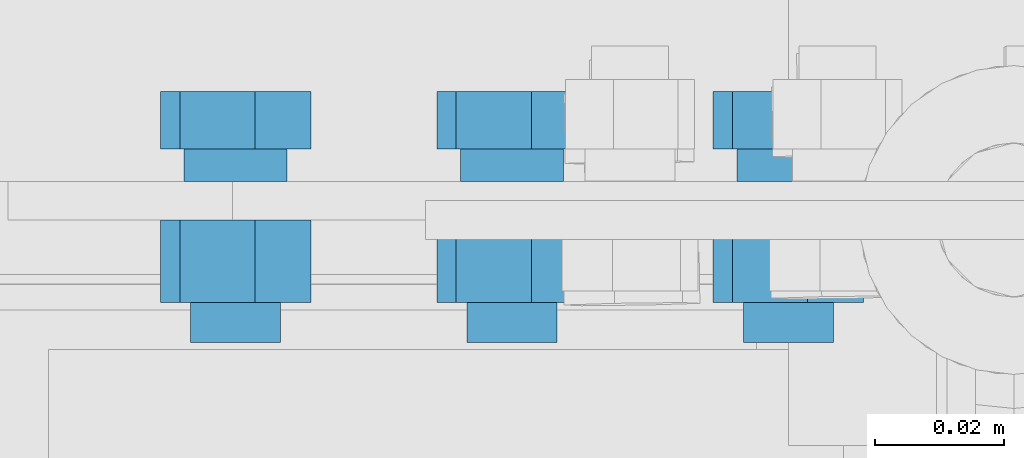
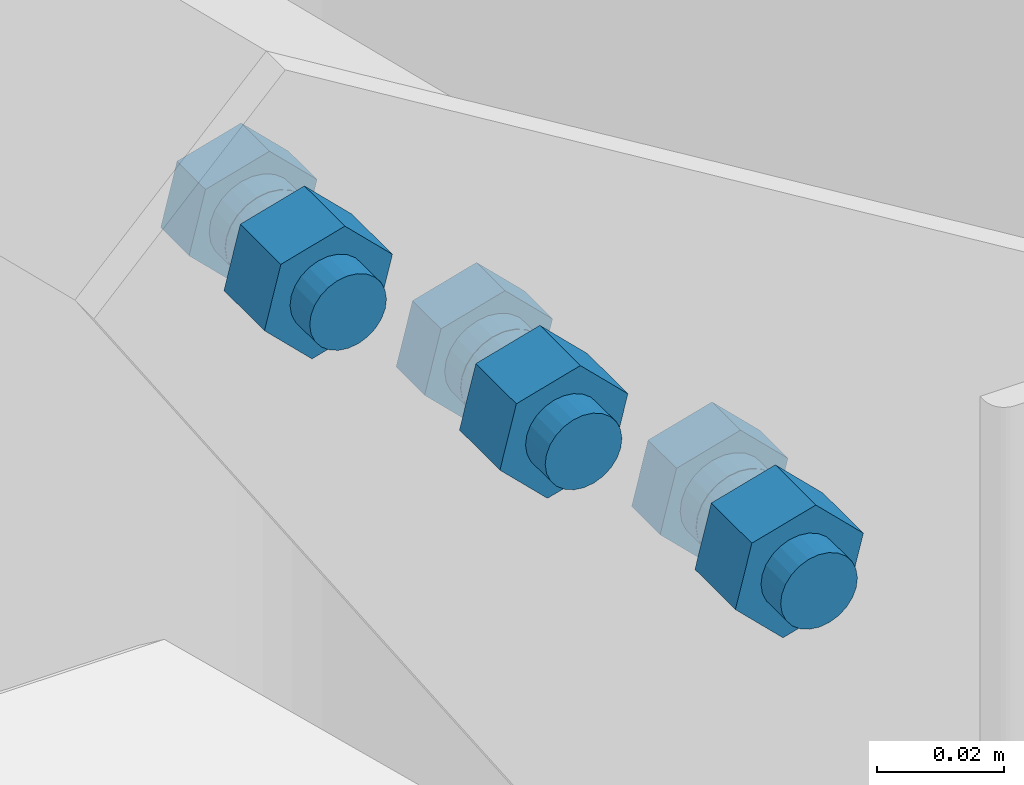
# One storey, part 16 of 21: 1 mechanical fastener.
"""IFC2X3 building model written with IfcOpenShell, lengths in millimetres."""

from ifc_helpers import new_model, si_unit, frame, origin_with_axes, place, context, project, spatial, faceted_brep, element, save


model = new_model("IFC2X3")

# Units and contexts
model_context_1 = context("Model", 3, precision=1e-05, world=origin_with_axes(), identifier="Body")
model_context_2 = context("Model", 3, precision=1e-05, world=origin_with_axes())
ifc_project = project(units=[si_unit("LENGTHUNIT", "METRE", prefix="MILLI"), si_unit("AREAUNIT", "SQUARE_METRE"), si_unit("VOLUMEUNIT", "CUBIC_METRE"), si_unit("MASSUNIT", "GRAM", prefix="KILO"), si_unit("TIMEUNIT", "SECOND"), si_unit("PLANEANGLEUNIT", "RADIAN"), si_unit("SOLIDANGLEUNIT", "STERADIAN"), si_unit("THERMODYNAMICTEMPERATUREUNIT", "DEGREE_CELSIUS"), si_unit("LUMINOUSINTENSITYUNIT", "LUMEN")], contexts=[model_context_1, model_context_2])

# Site, building, storey
site_placement = place(None, origin_with_axes())
site = spatial("IfcSite", under=ifc_project, at=site_placement, Name="Undefined", CompositionType="ELEMENT")
building_placement = place(site_placement, origin_with_axes())
building = spatial("IfcBuilding", under=site, at=building_placement, Name="Undefined", CompositionType="ELEMENT")
storey_placement = place(building_placement, origin_with_axes())
storey = spatial("IfcBuildingStorey", under=building, at=storey_placement, Name="Undefined", CompositionType="ELEMENT")

# Mechanical fastener
mechanical_fastener_placement = place(storey_placement, frame((-95.054184, -44.002958, 108.71803), z_axis=(0.69852816, -2.2800001e-05, 0.71558256), x_axis=(-0.71558256, -2.2200001e-05, 0.69852816)))
element("IfcMechanicalFastener", 1, at=mechanical_fastener_placement, inside=storey, Name="Bolt assembly", NominalDiameter=14.0, NominalLength=30.0, context=model_context_1, shape_type="Brep", body=[
    faceted_brep([(12.124356, 10.997041, 0.0), (6.0621778, 10.997041, 10.5), (-6.0621778, 10.997041, 10.5), (-12.124356, 10.997041, 0.0), (-6.0621778, 10.997041, -10.5), (6.0621778, 10.997041, -10.5), (6.0621778, 19.997041, -10.5), (-6.0621778, 19.997041, -10.5), (-12.124356, 19.997041, 0.0), (-6.0621778, 19.997041, 10.5), (6.0621778, 19.997041, 10.5), (12.124356, 19.997041, 0.0), (7.0, 19.997041, 0.0), (6.7614808, 19.997041, 1.8117333), (6.0621778, 19.997041, 3.5), (4.9497475, 19.997041, 4.9497475), (3.5, 19.997041, 6.0621778), (1.8117333, 19.997041, 6.7614808), (-7.2543519e-13, 19.997041, 7.0), (-1.8117333, 19.997041, 6.7614808), (-3.5, 19.997041, 6.0621778), (-4.9497475, 19.997041, 4.9497475), (-6.0621778, 19.997041, 3.5), (-6.7614808, 19.997041, 1.8117333), (-7.0, 19.997041, -1.4508704e-12), (-6.7614808, 19.997041, -1.8117333), (-6.0621778, 19.997041, -3.5), (-4.9497475, 19.997041, -4.9497475), (-3.5, 19.997041, -6.0621778), (-1.8117333, 19.997041, -6.7614808), (2.168534e-12, 19.997041, -7.0), (1.8117333, 19.997041, -6.7614808), (3.5, 19.997041, -6.0621778), (4.9497475, 19.997041, -4.9497475), (6.0621778, 19.997041, -3.5), (6.7614808, 19.997041, -1.8117333), (6.7614808, 49.997041, -1.8117333), (6.0621778, 49.997041, -3.5), (4.9497475, 49.997041, -4.9497475), (3.5, 49.997041, -6.0621778), (1.8117333, 49.997041, -6.7614808), (2.168534e-12, 49.997041, -7.0), (-1.8117333, 49.997041, -6.7614808), (-3.5, 49.997041, -6.0621778), (-4.9497475, 49.997041, -4.9497475), (-6.0621778, 49.997041, -3.5), (-6.7614808, 49.997041, -1.8117333), (-7.0, 49.997041, -1.4508704e-12), (-6.7614808, 49.997041, 1.8117333), (-6.0621778, 49.997041, 3.5), (-4.9497475, 49.997041, 4.9497475), (-3.5, 49.997041, 6.0621778), (-1.8117333, 49.997041, 6.7614808), (-7.2543519e-13, 49.997041, 7.0), (1.8117333, 49.997041, 6.7614808), (3.5, 49.997041, 6.0621778), (4.9497475, 49.997041, 4.9497475), (6.0621778, 49.997041, 3.5), (6.7614808, 49.997041, 1.8117333), (7.0, 49.997041, 0.0), (12.124356, 30.99748, 0.0), (6.0621778, 30.99748, 10.5), (-6.0621778, 30.99748, 10.5), (-12.124356, 30.99748, 0.0), (-6.0621778, 30.99748, -10.5), (6.0621778, 30.99748, -10.5), (6.0621778, 43.797481, -10.5), (-6.0621778, 43.797481, -10.5), (-12.124356, 43.797481, 0.0), (-6.0621778, 43.797481, 10.5), (6.0621778, 43.797481, 10.5), (12.124356, 43.797481, 0.0), (72.124356, 10.997041, 0.0), (66.062178, 10.997041, 10.5), (53.937822, 10.997041, 10.5), (47.875644, 10.997041, 0.0), (53.937822, 10.997041, -10.5), (66.062178, 10.997041, -10.5), (66.062178, 19.997041, -10.5), (53.937822, 19.997041, -10.5), (47.875644, 19.997041, 0.0), (53.937822, 19.997041, 10.5), (66.062178, 19.997041, 10.5), (72.124356, 19.997041, 0.0), (67.0, 19.997041, 0.0), (66.761481, 19.997041, 1.8117333), (66.062178, 19.997041, 3.5), (64.949747, 19.997041, 4.9497475), (63.5, 19.997041, 6.0621778), (61.811733, 19.997041, 6.7614808), (60.0, 19.997041, 7.0), (58.188267, 19.997041, 6.7614808), (56.5, 19.997041, 6.0621778), (55.050253, 19.997041, 4.9497475), (53.937822, 19.997041, 3.5), (53.238519, 19.997041, 1.8117333), (53.0, 19.997041, -1.4508704e-12), (53.238519, 19.997041, -1.8117333), (53.937822, 19.997041, -3.5), (55.050253, 19.997041, -4.9497475), (56.5, 19.997041, -6.0621778), (58.188267, 19.997041, -6.7614808), (60.0, 19.997041, -7.0), (61.811733, 19.997041, -6.7614808), (63.5, 19.997041, -6.0621778), (64.949747, 19.997041, -4.9497475), (66.062178, 19.997041, -3.5), (66.761481, 19.997041, -1.8117333), (66.761481, 49.997041, -1.8117333), (66.062178, 49.997041, -3.5), (64.949747, 49.997041, -4.9497475), (63.5, 49.997041, -6.0621778), (61.811733, 49.997041, -6.7614808), (60.0, 49.997041, -7.0), (58.188267, 49.997041, -6.7614808), (56.5, 49.997041, -6.0621778), (55.050253, 49.997041, -4.9497475), (53.937822, 49.997041, -3.5), (53.238519, 49.997041, -1.8117333), (53.0, 49.997041, -1.4508704e-12), (53.238519, 49.997041, 1.8117333), (53.937822, 49.997041, 3.5), (55.050253, 49.997041, 4.9497475), (56.5, 49.997041, 6.0621778), (58.188267, 49.997041, 6.7614808), (60.0, 49.997041, 7.0), (61.811733, 49.997041, 6.7614808), (63.5, 49.997041, 6.0621778), (64.949747, 49.997041, 4.9497475), (66.062178, 49.997041, 3.5), (66.761481, 49.997041, 1.8117333), (67.0, 49.997041, 0.0), (72.124356, 30.99748, 0.0), (66.062178, 30.99748, 10.5), (53.937822, 30.99748, 10.5), (47.875644, 30.99748, 0.0), (53.937822, 30.99748, -10.5), (66.062178, 30.99748, -10.5), (66.062178, 43.797481, -10.5), (53.937822, 43.797481, -10.5), (47.875644, 43.797481, 0.0), (53.937822, 43.797481, 10.5), (66.062178, 43.797481, 10.5), (72.124356, 43.797481, 0.0), (132.12436, 10.997041, 0.0), (126.06218, 10.997041, 10.5), (113.93782, 10.997041, 10.5), (107.87564, 10.997041, 0.0), (113.93782, 10.997041, -10.5), (126.06218, 10.997041, -10.5), (126.06218, 19.997041, -10.5), (113.93782, 19.997041, -10.5), (107.87564, 19.997041, 0.0), (113.93782, 19.997041, 10.5), (126.06218, 19.997041, 10.5), (132.12436, 19.997041, 0.0), (127.0, 19.997041, 0.0), (126.76148, 19.997041, 1.8117333), (126.06218, 19.997041, 3.5), (124.94975, 19.997041, 4.9497475), (123.5, 19.997041, 6.0621778), (121.81173, 19.997041, 6.7614808), (120.0, 19.997041, 7.0), (118.18827, 19.997041, 6.7614808), (116.5, 19.997041, 6.0621778), (115.05025, 19.997041, 4.9497475), (113.93782, 19.997041, 3.5), (113.23852, 19.997041, 1.8117333), (113.0, 19.997041, -1.4508704e-12), (113.23852, 19.997041, -1.8117333), (113.93782, 19.997041, -3.5), (115.05025, 19.997041, -4.9497475), (116.5, 19.997041, -6.0621778), (118.18827, 19.997041, -6.7614808), (120.0, 19.997041, -7.0), (121.81173, 19.997041, -6.7614808), (123.5, 19.997041, -6.0621778), (124.94975, 19.997041, -4.9497475), (126.06218, 19.997041, -3.5), (126.76148, 19.997041, -1.8117333), (126.76148, 49.997041, -1.8117333), (126.06218, 49.997041, -3.5), (124.94975, 49.997041, -4.9497475), (123.5, 49.997041, -6.0621778), (121.81173, 49.997041, -6.7614808), (120.0, 49.997041, -7.0), (118.18827, 49.997041, -6.7614808), (116.5, 49.997041, -6.0621778), (115.05025, 49.997041, -4.9497475), (113.93782, 49.997041, -3.5), (113.23852, 49.997041, -1.8117333), (113.0, 49.997041, -1.4508704e-12), (113.23852, 49.997041, 1.8117333), (113.93782, 49.997041, 3.5), (115.05025, 49.997041, 4.9497475), (116.5, 49.997041, 6.0621778), (118.18827, 49.997041, 6.7614808), (120.0, 49.997041, 7.0), (121.81173, 49.997041, 6.7614808), (123.5, 49.997041, 6.0621778), (124.94975, 49.997041, 4.9497475), (126.06218, 49.997041, 3.5), (126.76148, 49.997041, 1.8117333), (127.0, 49.997041, 0.0), (132.12436, 30.99748, 0.0), (126.06218, 30.99748, 10.5), (113.93782, 30.99748, 10.5), (107.87564, 30.99748, 0.0), (113.93782, 30.99748, -10.5), (126.06218, 30.99748, -10.5), (126.06218, 43.797481, -10.5), (113.93782, 43.797481, -10.5), (107.87564, 43.797481, 0.0), (113.93782, 43.797481, 10.5), (126.06218, 43.797481, 10.5), (132.12436, 43.797481, 0.0)], [[[0, 1, 2, 3, 4, 5]], [[6, 7, 8, 9, 10, 11]], [[0, 11, 10, 1]], [[1, 10, 9, 2]], [[2, 9, 8, 3]], [[3, 8, 7, 4]], [[4, 7, 6, 5]], [[5, 6, 11, 0]], [[12, 13, 14, 15, 16, 17, 18, 19, 20, 21, 22, 23, 24, 25, 26, 27, 28, 29, 30, 31, 32, 33, 34, 35]], [[36, 37, 38, 39, 40, 41, 42, 43, 44, 45, 46, 47, 48, 49, 50, 51, 52, 53, 54, 55, 56, 57, 58, 59]], [[12, 59, 58, 13]], [[13, 58, 57, 14]], [[14, 57, 56, 15]], [[15, 56, 55, 16]], [[16, 55, 54, 17]], [[17, 54, 53, 18]], [[18, 53, 52, 19]], [[19, 52, 51, 20]], [[20, 51, 50, 21]], [[21, 50, 49, 22]], [[22, 49, 48, 23]], [[23, 48, 47, 24]], [[24, 47, 46, 25]], [[25, 46, 45, 26]], [[26, 45, 44, 27]], [[27, 44, 43, 28]], [[28, 43, 42, 29]], [[29, 42, 41, 30]], [[30, 41, 40, 31]], [[31, 40, 39, 32]], [[32, 39, 38, 33]], [[33, 38, 37, 34]], [[34, 37, 36, 35]], [[35, 36, 59, 12]], [[60, 61, 62, 63, 64, 65]], [[66, 67, 68, 69, 70, 71]], [[60, 71, 70, 61]], [[61, 70, 69, 62]], [[62, 69, 68, 63]], [[63, 68, 67, 64]], [[64, 67, 66, 65]], [[65, 66, 71, 60]], [[72, 73, 74, 75, 76, 77]], [[78, 79, 80, 81, 82, 83]], [[72, 83, 82, 73]], [[73, 82, 81, 74]], [[74, 81, 80, 75]], [[75, 80, 79, 76]], [[76, 79, 78, 77]], [[77, 78, 83, 72]], [[84, 85, 86, 87, 88, 89, 90, 91, 92, 93, 94, 95, 96, 97, 98, 99, 100, 101, 102, 103, 104, 105, 106, 107]], [[108, 109, 110, 111, 112, 113, 114, 115, 116, 117, 118, 119, 120, 121, 122, 123, 124, 125, 126, 127, 128, 129, 130, 131]], [[84, 131, 130, 85]], [[85, 130, 129, 86]], [[86, 129, 128, 87]], [[87, 128, 127, 88]], [[88, 127, 126, 89]], [[89, 126, 125, 90]], [[90, 125, 124, 91]], [[91, 124, 123, 92]], [[92, 123, 122, 93]], [[93, 122, 121, 94]], [[94, 121, 120, 95]], [[95, 120, 119, 96]], [[96, 119, 118, 97]], [[97, 118, 117, 98]], [[98, 117, 116, 99]], [[99, 116, 115, 100]], [[100, 115, 114, 101]], [[101, 114, 113, 102]], [[102, 113, 112, 103]], [[103, 112, 111, 104]], [[104, 111, 110, 105]], [[105, 110, 109, 106]], [[106, 109, 108, 107]], [[107, 108, 131, 84]], [[132, 133, 134, 135, 136, 137]], [[138, 139, 140, 141, 142, 143]], [[132, 143, 142, 133]], [[133, 142, 141, 134]], [[134, 141, 140, 135]], [[135, 140, 139, 136]], [[136, 139, 138, 137]], [[137, 138, 143, 132]], [[144, 145, 146, 147, 148, 149]], [[150, 151, 152, 153, 154, 155]], [[144, 155, 154, 145]], [[145, 154, 153, 146]], [[146, 153, 152, 147]], [[147, 152, 151, 148]], [[148, 151, 150, 149]], [[149, 150, 155, 144]], [[156, 157, 158, 159, 160, 161, 162, 163, 164, 165, 166, 167, 168, 169, 170, 171, 172, 173, 174, 175, 176, 177, 178, 179]], [[180, 181, 182, 183, 184, 185, 186, 187, 188, 189, 190, 191, 192, 193, 194, 195, 196, 197, 198, 199, 200, 201, 202, 203]], [[156, 203, 202, 157]], [[157, 202, 201, 158]], [[158, 201, 200, 159]], [[159, 200, 199, 160]], [[160, 199, 198, 161]], [[161, 198, 197, 162]], [[162, 197, 196, 163]], [[163, 196, 195, 164]], [[164, 195, 194, 165]], [[165, 194, 193, 166]], [[166, 193, 192, 167]], [[167, 192, 191, 168]], [[168, 191, 190, 169]], [[169, 190, 189, 170]], [[170, 189, 188, 171]], [[171, 188, 187, 172]], [[172, 187, 186, 173]], [[173, 186, 185, 174]], [[174, 185, 184, 175]], [[175, 184, 183, 176]], [[176, 183, 182, 177]], [[177, 182, 181, 178]], [[178, 181, 180, 179]], [[179, 180, 203, 156]], [[204, 205, 206, 207, 208, 209]], [[210, 211, 212, 213, 214, 215]], [[204, 215, 214, 205]], [[205, 214, 213, 206]], [[206, 213, 212, 207]], [[207, 212, 211, 208]], [[208, 211, 210, 209]], [[209, 210, 215, 204]]]),
    faceted_brep([(8.0, 25.09748, 0.0), (7.7274066, 25.09748, 2.0705524), (6.9282032, 25.09748, 4.0), (5.6568542, 25.09748, 5.6568542), (4.0, 25.09748, 6.9282032), (2.0705524, 25.09748, 7.7274066), (-8.2906879e-13, 25.09748, 8.0), (-2.0705524, 25.09748, 7.7274066), (-4.0, 25.09748, 6.9282032), (-5.6568542, 25.09748, 5.6568542), (-6.9282032, 25.09748, 4.0), (-7.7274066, 25.09748, 2.0705524), (-8.0, 25.09748, -1.6581376e-12), (-7.7274066, 25.09748, -2.0705524), (-6.9282032, 25.09748, -4.0), (-5.6568542, 25.09748, -5.6568542), (-4.0, 25.09748, -6.9282032), (-2.0705524, 25.09748, -7.7274066), (2.4783246e-12, 25.09748, -8.0), (2.0705524, 25.09748, -7.7274066), (4.0, 25.09748, -6.9282032), (5.6568542, 25.09748, -5.6568542), (6.9282032, 25.09748, -4.0), (7.7274066, 25.09748, -2.0705524), (7.7274066, 31.09748, -2.0705524), (6.9282032, 31.09748, -4.0), (5.6568542, 31.09748, -5.6568542), (4.0, 31.09748, -6.9282032), (2.0705524, 31.09748, -7.7274066), (2.4783246e-12, 31.09748, -8.0), (-2.0705524, 31.09748, -7.7274066), (-4.0, 31.09748, -6.9282032), (-5.6568542, 31.09748, -5.6568542), (-6.9282032, 31.09748, -4.0), (-7.7274066, 31.09748, -2.0705524), (-8.0, 31.09748, -1.6581376e-12), (-7.7274066, 31.09748, 2.0705524), (-6.9282032, 31.09748, 4.0), (-5.6568542, 31.09748, 5.6568542), (-4.0, 31.09748, 6.9282032), (-2.0705524, 31.09748, 7.7274066), (-8.2906879e-13, 31.09748, 8.0), (2.0705524, 31.09748, 7.7274066), (4.0, 31.09748, 6.9282032), (5.6568542, 31.09748, 5.6568542), (6.9282032, 31.09748, 4.0), (7.7274066, 31.09748, 2.0705524), (8.0, 31.09748, 0.0), (8.0, 19.897041, 0.0), (7.7274066, 19.897041, 2.0705524), (6.9282032, 19.897041, 4.0), (5.6568542, 19.897041, 5.6568542), (4.0, 19.897041, 6.9282032), (2.0705524, 19.897041, 7.7274066), (-8.2906879e-13, 19.897041, 8.0), (-2.0705524, 19.897041, 7.7274066), (-4.0, 19.897041, 6.9282032), (-5.6568542, 19.897041, 5.6568542), (-6.9282032, 19.897041, 4.0), (-7.7274066, 19.897041, 2.0705524), (-8.0, 19.897041, -1.6581376e-12), (-7.7274066, 19.897041, -2.0705524), (-6.9282032, 19.897041, -4.0), (-5.6568542, 19.897041, -5.6568542), (-4.0, 19.897041, -6.9282032), (-2.0705524, 19.897041, -7.7274066), (2.4783246e-12, 19.897041, -8.0), (2.0705524, 19.897041, -7.7274066), (4.0, 19.897041, -6.9282032), (5.6568542, 19.897041, -5.6568542), (6.9282032, 19.897041, -4.0), (7.7274066, 19.897041, -2.0705524), (7.7274066, 24.997041, -2.0705524), (6.9282032, 24.997041, -4.0), (5.6568542, 24.997041, -5.6568542), (4.0, 24.997041, -6.9282032), (2.0705524, 24.997041, -7.7274066), (2.4783246e-12, 24.997041, -8.0), (-2.0705524, 24.997041, -7.7274066), (-4.0, 24.997041, -6.9282032), (-5.6568542, 24.997041, -5.6568542), (-6.9282032, 24.997041, -4.0), (-7.7274066, 24.997041, -2.0705524), (-8.0, 24.997041, -1.6581376e-12), (-7.7274066, 24.997041, 2.0705524), (-6.9282032, 24.997041, 4.0), (-5.6568542, 24.997041, 5.6568542), (-4.0, 24.997041, 6.9282032), (-2.0705524, 24.997041, 7.7274066), (-8.2906879e-13, 24.997041, 8.0), (2.0705524, 24.997041, 7.7274066), (4.0, 24.997041, 6.9282032), (5.6568542, 24.997041, 5.6568542), (6.9282032, 24.997041, 4.0), (7.7274066, 24.997041, 2.0705524), (8.0, 24.997041, 0.0), (68.0, 25.09748, 0.0), (67.727407, 25.09748, 2.0705524), (66.928203, 25.09748, 4.0), (65.656854, 25.09748, 5.6568542), (64.0, 25.09748, 6.9282032), (62.070552, 25.09748, 7.7274066), (60.0, 25.09748, 8.0), (57.929448, 25.09748, 7.7274066), (56.0, 25.09748, 6.9282032), (54.343146, 25.09748, 5.6568542), (53.071797, 25.09748, 4.0), (52.272593, 25.09748, 2.0705524), (52.0, 25.09748, -1.6581376e-12), (52.272593, 25.09748, -2.0705524), (53.071797, 25.09748, -4.0), (54.343146, 25.09748, -5.6568542), (56.0, 25.09748, -6.9282032), (57.929448, 25.09748, -7.7274066), (60.0, 25.09748, -8.0), (62.070552, 25.09748, -7.7274066), (64.0, 25.09748, -6.9282032), (65.656854, 25.09748, -5.6568542), (66.928203, 25.09748, -4.0), (67.727407, 25.09748, -2.0705524), (67.727407, 31.09748, -2.0705524), (66.928203, 31.09748, -4.0), (65.656854, 31.09748, -5.6568542), (64.0, 31.09748, -6.9282032), (62.070552, 31.09748, -7.7274066), (60.0, 31.09748, -8.0), (57.929448, 31.09748, -7.7274066), (56.0, 31.09748, -6.9282032), (54.343146, 31.09748, -5.6568542), (53.071797, 31.09748, -4.0), (52.272593, 31.09748, -2.0705524), (52.0, 31.09748, -1.6581376e-12), (52.272593, 31.09748, 2.0705524), (53.071797, 31.09748, 4.0), (54.343146, 31.09748, 5.6568542), (56.0, 31.09748, 6.9282032), (57.929448, 31.09748, 7.7274066), (60.0, 31.09748, 8.0), (62.070552, 31.09748, 7.7274066), (64.0, 31.09748, 6.9282032), (65.656854, 31.09748, 5.6568542), (66.928203, 31.09748, 4.0), (67.727407, 31.09748, 2.0705524), (68.0, 31.09748, 0.0), (68.0, 19.897041, 0.0), (67.727407, 19.897041, 2.0705524), (66.928203, 19.897041, 4.0), (65.656854, 19.897041, 5.6568542), (64.0, 19.897041, 6.9282032), (62.070552, 19.897041, 7.7274066), (60.0, 19.897041, 8.0), (57.929448, 19.897041, 7.7274066), (56.0, 19.897041, 6.9282032), (54.343146, 19.897041, 5.6568542), (53.071797, 19.897041, 4.0), (52.272593, 19.897041, 2.0705524), (52.0, 19.897041, -1.6581376e-12), (52.272593, 19.897041, -2.0705524), (53.071797, 19.897041, -4.0), (54.343146, 19.897041, -5.6568542), (56.0, 19.897041, -6.9282032), (57.929448, 19.897041, -7.7274066), (60.0, 19.897041, -8.0), (62.070552, 19.897041, -7.7274066), (64.0, 19.897041, -6.9282032), (65.656854, 19.897041, -5.6568542), (66.928203, 19.897041, -4.0), (67.727407, 19.897041, -2.0705524), (67.727407, 24.997041, -2.0705524), (66.928203, 24.997041, -4.0), (65.656854, 24.997041, -5.6568542), (64.0, 24.997041, -6.9282032), (62.070552, 24.997041, -7.7274066), (60.0, 24.997041, -8.0), (57.929448, 24.997041, -7.7274066), (56.0, 24.997041, -6.9282032), (54.343146, 24.997041, -5.6568542), (53.071797, 24.997041, -4.0), (52.272593, 24.997041, -2.0705524), (52.0, 24.997041, -1.6581376e-12), (52.272593, 24.997041, 2.0705524), (53.071797, 24.997041, 4.0), (54.343146, 24.997041, 5.6568542), (56.0, 24.997041, 6.9282032), (57.929448, 24.997041, 7.7274066), (60.0, 24.997041, 8.0), (62.070552, 24.997041, 7.7274066), (64.0, 24.997041, 6.9282032), (65.656854, 24.997041, 5.6568542), (66.928203, 24.997041, 4.0), (67.727407, 24.997041, 2.0705524), (68.0, 24.997041, 0.0), (128.0, 25.09748, 0.0), (127.72741, 25.09748, 2.0705524), (126.9282, 25.09748, 4.0), (125.65685, 25.09748, 5.6568542), (124.0, 25.09748, 6.9282032), (122.07055, 25.09748, 7.7274066), (120.0, 25.09748, 8.0), (117.92945, 25.09748, 7.7274066), (116.0, 25.09748, 6.9282032), (114.34315, 25.09748, 5.6568542), (113.0718, 25.09748, 4.0), (112.27259, 25.09748, 2.0705524), (112.0, 25.09748, -1.6581376e-12), (112.27259, 25.09748, -2.0705524), (113.0718, 25.09748, -4.0), (114.34315, 25.09748, -5.6568542), (116.0, 25.09748, -6.9282032), (117.92945, 25.09748, -7.7274066), (120.0, 25.09748, -8.0), (122.07055, 25.09748, -7.7274066), (124.0, 25.09748, -6.9282032), (125.65685, 25.09748, -5.6568542), (126.9282, 25.09748, -4.0), (127.72741, 25.09748, -2.0705524), (127.72741, 31.09748, -2.0705524), (126.9282, 31.09748, -4.0), (125.65685, 31.09748, -5.6568542), (124.0, 31.09748, -6.9282032), (122.07055, 31.09748, -7.7274066), (120.0, 31.09748, -8.0), (117.92945, 31.09748, -7.7274066), (116.0, 31.09748, -6.9282032), (114.34315, 31.09748, -5.6568542), (113.0718, 31.09748, -4.0), (112.27259, 31.09748, -2.0705524), (112.0, 31.09748, -1.6581376e-12), (112.27259, 31.09748, 2.0705524), (113.0718, 31.09748, 4.0), (114.34315, 31.09748, 5.6568542), (116.0, 31.09748, 6.9282032), (117.92945, 31.09748, 7.7274066), (120.0, 31.09748, 8.0), (122.07055, 31.09748, 7.7274066), (124.0, 31.09748, 6.9282032), (125.65685, 31.09748, 5.6568542), (126.9282, 31.09748, 4.0), (127.72741, 31.09748, 2.0705524), (128.0, 31.09748, 0.0), (128.0, 19.897041, 0.0), (127.72741, 19.897041, 2.0705524), (126.9282, 19.897041, 4.0), (125.65685, 19.897041, 5.6568542), (124.0, 19.897041, 6.9282032), (122.07055, 19.897041, 7.7274066), (120.0, 19.897041, 8.0), (117.92945, 19.897041, 7.7274066), (116.0, 19.897041, 6.9282032), (114.34315, 19.897041, 5.6568542), (113.0718, 19.897041, 4.0), (112.27259, 19.897041, 2.0705524), (112.0, 19.897041, -1.6581376e-12), (112.27259, 19.897041, -2.0705524), (113.0718, 19.897041, -4.0), (114.34315, 19.897041, -5.6568542), (116.0, 19.897041, -6.9282032), (117.92945, 19.897041, -7.7274066), (120.0, 19.897041, -8.0), (122.07055, 19.897041, -7.7274066), (124.0, 19.897041, -6.9282032), (125.65685, 19.897041, -5.6568542), (126.9282, 19.897041, -4.0), (127.72741, 19.897041, -2.0705524), (127.72741, 24.997041, -2.0705524), (126.9282, 24.997041, -4.0), (125.65685, 24.997041, -5.6568542), (124.0, 24.997041, -6.9282032), (122.07055, 24.997041, -7.7274066), (120.0, 24.997041, -8.0), (117.92945, 24.997041, -7.7274066), (116.0, 24.997041, -6.9282032), (114.34315, 24.997041, -5.6568542), (113.0718, 24.997041, -4.0), (112.27259, 24.997041, -2.0705524), (112.0, 24.997041, -1.6581376e-12), (112.27259, 24.997041, 2.0705524), (113.0718, 24.997041, 4.0), (114.34315, 24.997041, 5.6568542), (116.0, 24.997041, 6.9282032), (117.92945, 24.997041, 7.7274066), (120.0, 24.997041, 8.0), (122.07055, 24.997041, 7.7274066), (124.0, 24.997041, 6.9282032), (125.65685, 24.997041, 5.6568542), (126.9282, 24.997041, 4.0), (127.72741, 24.997041, 2.0705524), (128.0, 24.997041, 0.0)], [[[0, 1, 2, 3, 4, 5, 6, 7, 8, 9, 10, 11, 12, 13, 14, 15, 16, 17, 18, 19, 20, 21, 22, 23]], [[24, 25, 26, 27, 28, 29, 30, 31, 32, 33, 34, 35, 36, 37, 38, 39, 40, 41, 42, 43, 44, 45, 46, 47]], [[0, 47, 46, 1]], [[1, 46, 45, 2]], [[2, 45, 44, 3]], [[3, 44, 43, 4]], [[4, 43, 42, 5]], [[5, 42, 41, 6]], [[6, 41, 40, 7]], [[7, 40, 39, 8]], [[8, 39, 38, 9]], [[9, 38, 37, 10]], [[10, 37, 36, 11]], [[11, 36, 35, 12]], [[12, 35, 34, 13]], [[13, 34, 33, 14]], [[14, 33, 32, 15]], [[15, 32, 31, 16]], [[16, 31, 30, 17]], [[17, 30, 29, 18]], [[18, 29, 28, 19]], [[19, 28, 27, 20]], [[20, 27, 26, 21]], [[21, 26, 25, 22]], [[22, 25, 24, 23]], [[23, 24, 47, 0]], [[48, 49, 50, 51, 52, 53, 54, 55, 56, 57, 58, 59, 60, 61, 62, 63, 64, 65, 66, 67, 68, 69, 70, 71]], [[72, 73, 74, 75, 76, 77, 78, 79, 80, 81, 82, 83, 84, 85, 86, 87, 88, 89, 90, 91, 92, 93, 94, 95]], [[48, 95, 94, 49]], [[49, 94, 93, 50]], [[50, 93, 92, 51]], [[51, 92, 91, 52]], [[52, 91, 90, 53]], [[53, 90, 89, 54]], [[54, 89, 88, 55]], [[55, 88, 87, 56]], [[56, 87, 86, 57]], [[57, 86, 85, 58]], [[58, 85, 84, 59]], [[59, 84, 83, 60]], [[60, 83, 82, 61]], [[61, 82, 81, 62]], [[62, 81, 80, 63]], [[63, 80, 79, 64]], [[64, 79, 78, 65]], [[65, 78, 77, 66]], [[66, 77, 76, 67]], [[67, 76, 75, 68]], [[68, 75, 74, 69]], [[69, 74, 73, 70]], [[70, 73, 72, 71]], [[71, 72, 95, 48]], [[96, 97, 98, 99, 100, 101, 102, 103, 104, 105, 106, 107, 108, 109, 110, 111, 112, 113, 114, 115, 116, 117, 118, 119]], [[120, 121, 122, 123, 124, 125, 126, 127, 128, 129, 130, 131, 132, 133, 134, 135, 136, 137, 138, 139, 140, 141, 142, 143]], [[96, 143, 142, 97]], [[97, 142, 141, 98]], [[98, 141, 140, 99]], [[99, 140, 139, 100]], [[100, 139, 138, 101]], [[101, 138, 137, 102]], [[102, 137, 136, 103]], [[103, 136, 135, 104]], [[104, 135, 134, 105]], [[105, 134, 133, 106]], [[106, 133, 132, 107]], [[107, 132, 131, 108]], [[108, 131, 130, 109]], [[109, 130, 129, 110]], [[110, 129, 128, 111]], [[111, 128, 127, 112]], [[112, 127, 126, 113]], [[113, 126, 125, 114]], [[114, 125, 124, 115]], [[115, 124, 123, 116]], [[116, 123, 122, 117]], [[117, 122, 121, 118]], [[118, 121, 120, 119]], [[119, 120, 143, 96]], [[144, 145, 146, 147, 148, 149, 150, 151, 152, 153, 154, 155, 156, 157, 158, 159, 160, 161, 162, 163, 164, 165, 166, 167]], [[168, 169, 170, 171, 172, 173, 174, 175, 176, 177, 178, 179, 180, 181, 182, 183, 184, 185, 186, 187, 188, 189, 190, 191]], [[144, 191, 190, 145]], [[145, 190, 189, 146]], [[146, 189, 188, 147]], [[147, 188, 187, 148]], [[148, 187, 186, 149]], [[149, 186, 185, 150]], [[150, 185, 184, 151]], [[151, 184, 183, 152]], [[152, 183, 182, 153]], [[153, 182, 181, 154]], [[154, 181, 180, 155]], [[155, 180, 179, 156]], [[156, 179, 178, 157]], [[157, 178, 177, 158]], [[158, 177, 176, 159]], [[159, 176, 175, 160]], [[160, 175, 174, 161]], [[161, 174, 173, 162]], [[162, 173, 172, 163]], [[163, 172, 171, 164]], [[164, 171, 170, 165]], [[165, 170, 169, 166]], [[166, 169, 168, 167]], [[167, 168, 191, 144]], [[192, 193, 194, 195, 196, 197, 198, 199, 200, 201, 202, 203, 204, 205, 206, 207, 208, 209, 210, 211, 212, 213, 214, 215]], [[216, 217, 218, 219, 220, 221, 222, 223, 224, 225, 226, 227, 228, 229, 230, 231, 232, 233, 234, 235, 236, 237, 238, 239]], [[192, 239, 238, 193]], [[193, 238, 237, 194]], [[194, 237, 236, 195]], [[195, 236, 235, 196]], [[196, 235, 234, 197]], [[197, 234, 233, 198]], [[198, 233, 232, 199]], [[199, 232, 231, 200]], [[200, 231, 230, 201]], [[201, 230, 229, 202]], [[202, 229, 228, 203]], [[203, 228, 227, 204]], [[204, 227, 226, 205]], [[205, 226, 225, 206]], [[206, 225, 224, 207]], [[207, 224, 223, 208]], [[208, 223, 222, 209]], [[209, 222, 221, 210]], [[210, 221, 220, 211]], [[211, 220, 219, 212]], [[212, 219, 218, 213]], [[213, 218, 217, 214]], [[214, 217, 216, 215]], [[215, 216, 239, 192]], [[240, 241, 242, 243, 244, 245, 246, 247, 248, 249, 250, 251, 252, 253, 254, 255, 256, 257, 258, 259, 260, 261, 262, 263]], [[264, 265, 266, 267, 268, 269, 270, 271, 272, 273, 274, 275, 276, 277, 278, 279, 280, 281, 282, 283, 284, 285, 286, 287]], [[240, 287, 286, 241]], [[241, 286, 285, 242]], [[242, 285, 284, 243]], [[243, 284, 283, 244]], [[244, 283, 282, 245]], [[245, 282, 281, 246]], [[246, 281, 280, 247]], [[247, 280, 279, 248]], [[248, 279, 278, 249]], [[249, 278, 277, 250]], [[250, 277, 276, 251]], [[251, 276, 275, 252]], [[252, 275, 274, 253]], [[253, 274, 273, 254]], [[254, 273, 272, 255]], [[255, 272, 271, 256]], [[256, 271, 270, 257]], [[257, 270, 269, 258]], [[258, 269, 268, 259]], [[259, 268, 267, 260]], [[260, 267, 266, 261]], [[261, 266, 265, 262]], [[262, 265, 264, 263]], [[263, 264, 287, 240]]]),
])

save(model, "model.ifc")
